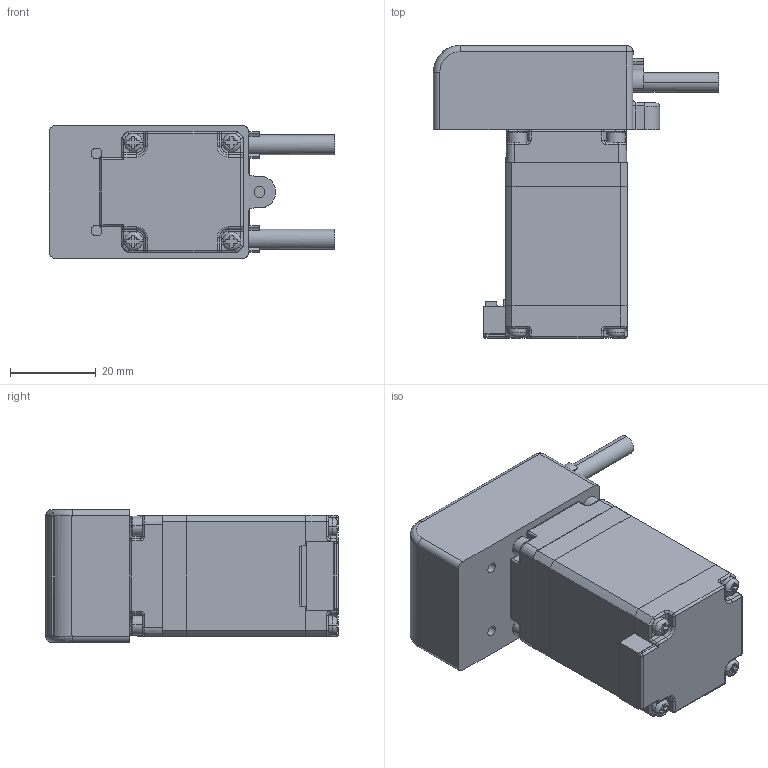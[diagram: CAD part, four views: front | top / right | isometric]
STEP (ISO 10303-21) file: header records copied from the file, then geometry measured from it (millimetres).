
FILE_DESCRIPTION (( 'STEP AP203' ), '1' );
FILE_NAME ('ETL200-18-Homepage closed-2.STEP', '2020-06-08T11:02:55', ( 'admin' ), ( 'Gardner Denver' ), 'SwSTEP 2.0', 'SolidWorks 2017', '' );
FILE_SCHEMA (( 'CONFIG_CONTROL_DESIGN' ));
Length unit declared in the file: millimetre
Products named in the file (1): ETL200-18-Homepage closed-2
Bounding box: 66.5 x 68.3 x 31 mm (x, y, z)
Volume: 67490.4 mm3; surface area: 13971.6 mm2
Topology: 1 solids, 1 shells, 786 faces, 2028 edges, 1244 vertices
Faces by surface type: plane 519, cylinder 152, bspline 53, torus 36, cone 16, sphere 10
Entity records: 25193 total; most frequent: CARTESIAN_POINT 6476, ORIENTED_EDGE 4016, DIRECTION 3668, EDGE_CURVE 2008, VECTOR 1362, LINE 1362, VERTEX_POINT 1244, AXIS2_PLACEMENT_3D 1153
